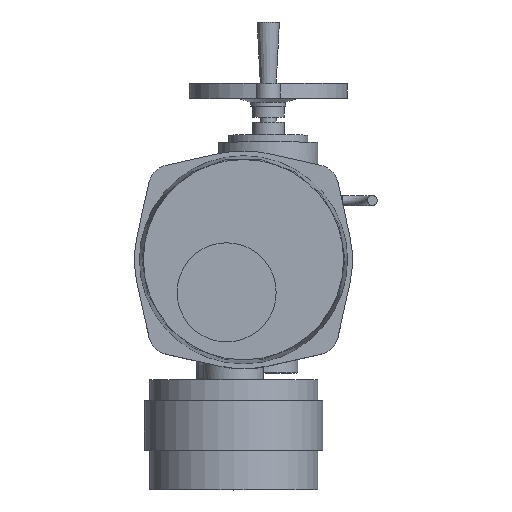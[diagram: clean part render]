
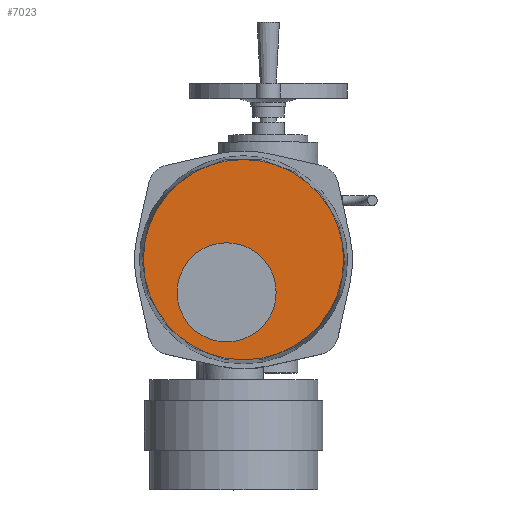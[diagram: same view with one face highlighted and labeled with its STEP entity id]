
A CAD part, top view. The second image highlights one B-rep face of the part: STEP entity #7023.
In plain terms, the highlighted planar face has unit normal (0, 0, 1).
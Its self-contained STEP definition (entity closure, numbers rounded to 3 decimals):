
#7023=ADVANCED_FACE('',(#12930,#12932),#12934,.T.);
#12930=FACE_BOUND('',#12931,.T.);
#12931=EDGE_LOOP('',(#17565));
#12932=FACE_BOUND('',#12933,.T.);
#12933=EDGE_LOOP('',(#17566));
#12934=PLANE('',#12935);
#12935=AXIS2_PLACEMENT_3D('',#12936,#12937,#12938);
#12936=CARTESIAN_POINT('',(20.,40.,473.));
#12937=DIRECTION('',(0.,0.,1.));
#12938=DIRECTION('',(-1.,0.,0.));
#17565=ORIENTED_EDGE('',*,*,#19859,.T.);
#17566=ORIENTED_EDGE('',*,*,#19866,.F.);
#19859=EDGE_CURVE('',#23555,#23555,#23556,.T.);
#19866=EDGE_CURVE('',#23565,#23565,#23566,.T.);
#23555=VERTEX_POINT('',#33888);
#23556=CIRCLE('',#33889,101.069);
#23565=VERTEX_POINT('',#33915);
#23566=CIRCLE('',#33916,50.);
#33888=CARTESIAN_POINT('',(-81.069,40.,473.));
#33889=AXIS2_PLACEMENT_3D('',#33890,#33891,#33892);
#33890=CARTESIAN_POINT('',(20.,40.,473.));
#33891=DIRECTION('',(0.,0.,1.));
#33892=DIRECTION('',(-1.,0.,0.));
#33915=CARTESIAN_POINT('',(-47.,7.,473.));
#33916=AXIS2_PLACEMENT_3D('',#33917,#33918,#33919);
#33917=CARTESIAN_POINT('',(3.,7.,473.));
#33918=DIRECTION('',(0.,0.,1.));
#33919=DIRECTION('',(-1.,0.,0.));
